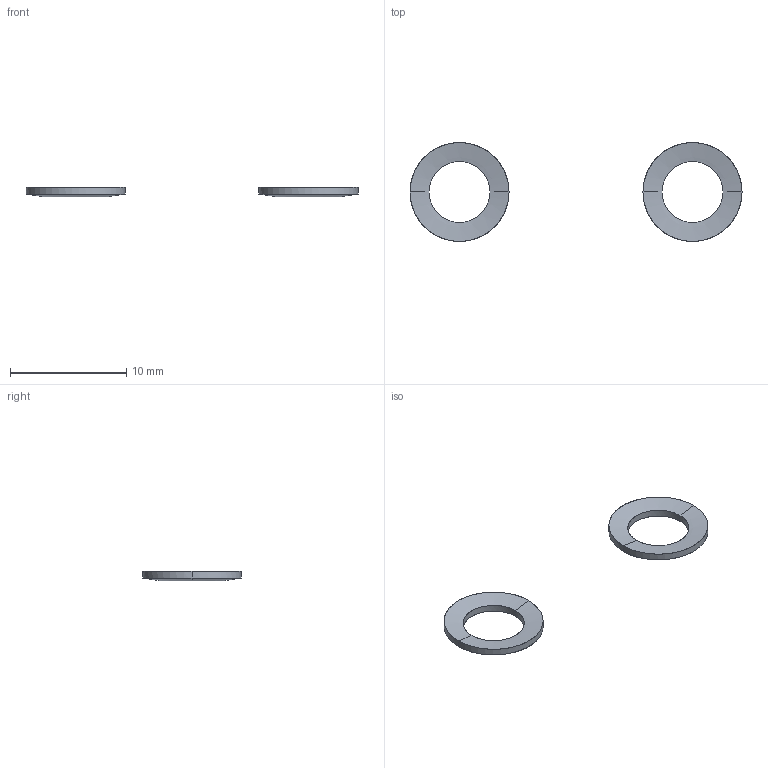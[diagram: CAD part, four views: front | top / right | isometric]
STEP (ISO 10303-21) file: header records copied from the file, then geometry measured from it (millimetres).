
FILE_DESCRIPTION(/* description */ (''),/* implementation_level */ '2;1');
FILE_NAME(/* name */ '7.x-cart#7.5#GTS5',/* time_stamp */ '2014-12-01T20:17:32+01:00',/* author */ (''),/* organization */ (''),/* preprocessor_version */ 'ST-DEVELOPER v14',/* originating_system */ '',/* authorisation */ '');
FILE_SCHEMA (('AUTOMOTIVE_DESIGN'));
Length unit declared in the file: millimetre
Products named in the file (2): Document; washer Schnorr-like, lock, M5
Assembly tree (2 placements, depth 2):
  Document
    washer Schnorr-like, lock, M5  x2
Bounding box: 28.5 x 8.48 x 0.85 mm (x, y, z)
Surface area: 193.9 mm2 (no closed solid volume)
Topology: 0 solids, 16 shells, 16 faces, 64 edges, 64 vertices
Faces by surface type: bspline 16
Entity records: 763 total; most frequent: CARTESIAN_POINT 357, B_SPLINE_CURVE_WITH_KNOTS 48, ORIENTED_EDGE 32, PCURVE 32, DEFINITIONAL_REPRESENTATION 32, SURFACE_CURVE 32, EDGE_CURVE 32, VERTEX_POINT 32
